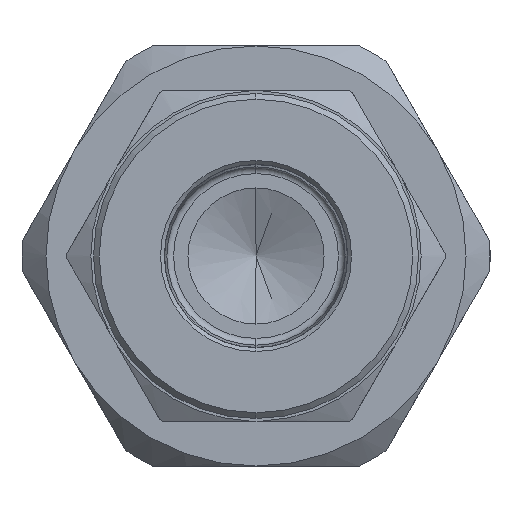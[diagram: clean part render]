
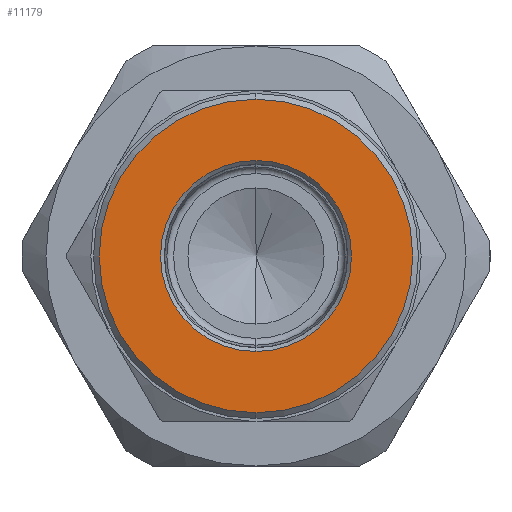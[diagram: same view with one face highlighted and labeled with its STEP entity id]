
A CAD part, left-side view. The second image highlights one B-rep face of the part: STEP entity #11179.
In plain terms, the highlighted planar face has unit normal (-1, 0, 0).
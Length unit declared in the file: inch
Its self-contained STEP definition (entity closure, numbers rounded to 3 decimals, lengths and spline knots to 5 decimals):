
#411 = DIRECTION ( 'NONE',  ( 0., 0., -1. ) ) ;
#720 = ORIENTED_EDGE ( 'NONE', *, *, #12555, .T. ) ;
#1741 = FACE_OUTER_BOUND ( 'NONE', #12926, .T. ) ;
#1868 = AXIS2_PLACEMENT_3D ( 'NONE', #15460, #6047, #5864 ) ;
#1887 = CARTESIAN_POINT ( 'NONE',  ( -0.293, 0., 0.3265 ) ) ;
#2240 = ORIENTED_EDGE ( 'NONE', *, *, #2266, .T. ) ;
#2266 = EDGE_CURVE ( 'NONE', #9177, #3617, #2428, .T. ) ;
#2428 = CIRCLE ( 'NONE', #1868, 0.199 ) ;
#3557 = EDGE_CURVE ( 'NONE', #3617, #9177, #8803, .T. ) ;
#3617 = VERTEX_POINT ( 'NONE', #6989 ) ;
#4098 = CARTESIAN_POINT ( 'NONE',  ( -0.293, 0., 0. ) ) ;
#4128 = DIRECTION ( 'NONE',  ( -1., 0., 0. ) ) ;
#4270 = DIRECTION ( 'NONE',  ( 1., 0., 0. ) ) ;
#5439 = CARTESIAN_POINT ( 'NONE',  ( -0.293, 0., 0. ) ) ;
#5764 = DIRECTION ( 'NONE',  ( 1., 0., 0. ) ) ;
#5864 = DIRECTION ( 'NONE',  ( 0., 0., -1. ) ) ;
#6047 = DIRECTION ( 'NONE',  ( 1., 0., 0. ) ) ;
#6533 = CIRCLE ( 'NONE', #11876, 0.3265 ) ;
#6989 = CARTESIAN_POINT ( 'NONE',  ( -0.293, 0., -0.199 ) ) ;
#7077 = DIRECTION ( 'NONE',  ( -1., 0., 0. ) ) ;
#7085 = PLANE ( 'NONE',  #16338 ) ;
#8342 = ORIENTED_EDGE ( 'NONE', *, *, #3557, .T. ) ;
#8803 = CIRCLE ( 'NONE', #13276, 0.199 ) ;
#9177 = VERTEX_POINT ( 'NONE', #10429 ) ;
#9461 = DIRECTION ( 'NONE',  ( 0., 0., -1. ) ) ;
#9818 = CARTESIAN_POINT ( 'NONE',  ( -0.293, 0.39693, 0. ) ) ;
#10347 = EDGE_CURVE ( 'NONE', #15225, #13939, #11439, .T. ) ;
#10416 = ORIENTED_EDGE ( 'NONE', *, *, #10347, .T. ) ;
#10429 = CARTESIAN_POINT ( 'NONE',  ( -0.293, 0., 0.199 ) ) ;
#11179 = ADVANCED_FACE ( 'NONE', ( #17316, #1741 ), #7085, .F. ) ;
#11439 = CIRCLE ( 'NONE', #15927, 0.3265 ) ;
#11672 = EDGE_LOOP ( 'NONE', ( #2240, #8342 ) ) ;
#11876 = AXIS2_PLACEMENT_3D ( 'NONE', #5439, #4128, #14860 ) ;
#12555 = EDGE_CURVE ( 'NONE', #13939, #15225, #6533, .T. ) ;
#12786 = CARTESIAN_POINT ( 'NONE',  ( -0.293, 0., -0.3265 ) ) ;
#12926 = EDGE_LOOP ( 'NONE', ( #10416, #720 ) ) ;
#13276 = AXIS2_PLACEMENT_3D ( 'NONE', #4098, #4270, #9461 ) ;
#13757 = CARTESIAN_POINT ( 'NONE',  ( -0.293, 0., 0. ) ) ;
#13939 = VERTEX_POINT ( 'NONE', #1887 ) ;
#14860 = DIRECTION ( 'NONE',  ( 0., 0., -1. ) ) ;
#15225 = VERTEX_POINT ( 'NONE', #12786 ) ;
#15460 = CARTESIAN_POINT ( 'NONE',  ( -0.293, 0., 0. ) ) ;
#15927 = AXIS2_PLACEMENT_3D ( 'NONE', #13757, #7077, #411 ) ;
#15987 = DIRECTION ( 'NONE',  ( 0., 0., -1. ) ) ;
#16338 = AXIS2_PLACEMENT_3D ( 'NONE', #9818, #5764, #15987 ) ;
#17316 = FACE_BOUND ( 'NONE', #11672, .T. ) ;
